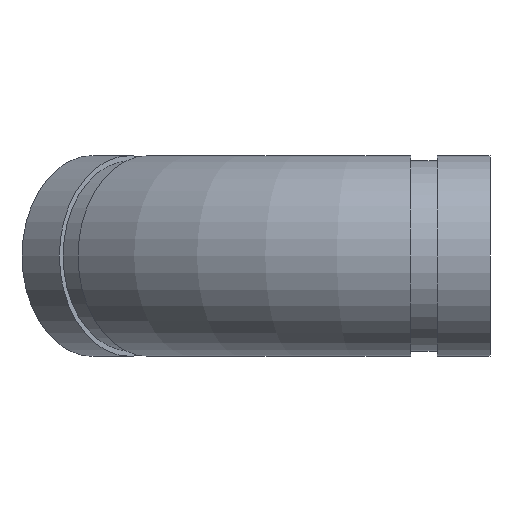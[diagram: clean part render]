
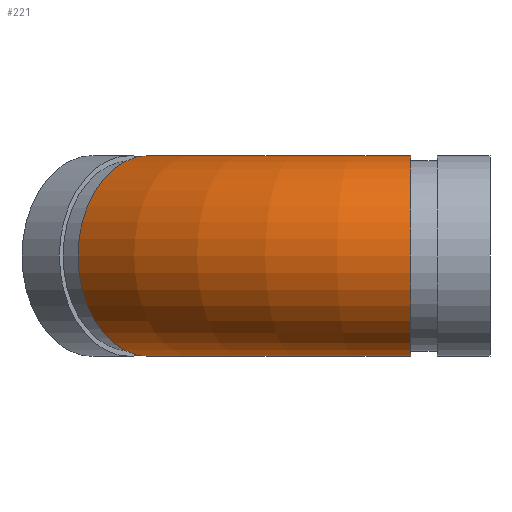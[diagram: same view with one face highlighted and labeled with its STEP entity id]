
A CAD part, left-side view. The second image highlights one B-rep face of the part: STEP entity #221.
In plain terms, the highlighted toroidal (fillet/blend) face has major radius 111.114 mm and minor radius 30.163 mm.
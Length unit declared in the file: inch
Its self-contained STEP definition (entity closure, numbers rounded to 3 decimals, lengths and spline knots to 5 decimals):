
#15=TOROIDAL_SURFACE('',#273,4.37455,1.1875);
#50=FACE_OUTER_BOUND('',#68,.T.);
#68=EDGE_LOOP('',(#178,#179,#180,#181));
#74=CIRCLE('',#246,1.1875);
#83=CIRCLE('',#259,1.1875);
#92=CIRCLE('',#274,3.18705);
#94=VERTEX_POINT('',#357);
#103=VERTEX_POINT('',#380);
#112=EDGE_CURVE('',#94,#94,#74,.T.);
#122=EDGE_CURVE('',#103,#103,#83,.T.);
#135=EDGE_CURVE('',#94,#103,#92,.T.);
#178=ORIENTED_EDGE('',*,*,#112,.T.);
#179=ORIENTED_EDGE('',*,*,#135,.T.);
#180=ORIENTED_EDGE('',*,*,#122,.F.);
#181=ORIENTED_EDGE('',*,*,#135,.F.);
#221=ADVANCED_FACE('',(#50),#15,.T.);
#246=AXIS2_PLACEMENT_3D('',#358,#283,#284);
#259=AXIS2_PLACEMENT_3D('',#381,#310,#311);
#273=AXIS2_PLACEMENT_3D('',#406,#342,#343);
#274=AXIS2_PLACEMENT_3D('',#407,#344,#345);
#283=DIRECTION('center_axis',(0.,1.,0.));
#284=DIRECTION('ref_axis',(-1.,0.,0.));
#310=DIRECTION('center_axis',(0.707,0.707,0.));
#311=DIRECTION('ref_axis',(-0.707,0.707,0.));
#342=DIRECTION('center_axis',(0.,0.,1.));
#343=DIRECTION('ref_axis',(1.,0.,0.));
#344=DIRECTION('center_axis',(0.,0.,-1.));
#345=DIRECTION('ref_axis',(1.,0.,0.));
#357=CARTESIAN_POINT('',(1.1875,0.938,0.));
#358=CARTESIAN_POINT('Origin',(0.,0.938,0.));
#380=CARTESIAN_POINT('',(2.12097,3.19159,0.));
#381=CARTESIAN_POINT('Origin',(1.28128,4.03128,0.));
#406=CARTESIAN_POINT('Origin',(4.37455,0.938,0.));
#407=CARTESIAN_POINT('Origin',(4.37455,0.938,0.));
